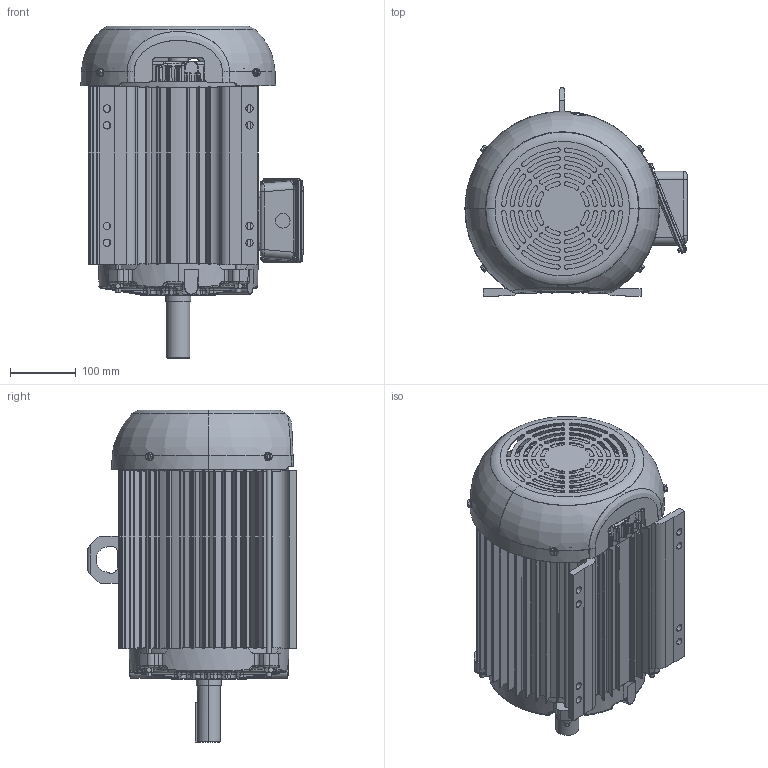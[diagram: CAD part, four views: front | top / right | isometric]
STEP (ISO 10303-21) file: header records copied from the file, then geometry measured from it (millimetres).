
FILE_DESCRIPTION (( 'STEP AP203' ), '1' );
FILE_NAME ('SS330100LN-1050_RevE.STEP', '2019-03-25T13:32:57', ( 'admin' ), ( '' ), 'SwSTEP 2.0', 'SolidWorks 2015', '' );
FILE_SCHEMA (( 'CONFIG_CONTROL_DESIGN' ));
Length unit declared in the file: inch
Products named in the file (1): SS330100LN-1050_RevE
Bounding box: 336.9 x 316.37 x 503.15 mm (x, y, z)
Volume: 4261420.9 mm3; surface area: 1635339.9 mm2
Topology: 29 solids, 29 shells, 4302 faces, 10898 edges, 6611 vertices
Faces by surface type: cylinder 1237, plane 1041, bspline 1033, torus 489, cone 418, sphere 84
Entity records: 174959 total; most frequent: CARTESIAN_POINT 77698, ORIENTED_EDGE 21610, DIRECTION 19300, EDGE_CURVE 10805, AXIS2_PLACEMENT_3D 7939, VERTEX_POINT 6611, CIRCLE 4669, EDGE_LOOP 4554
